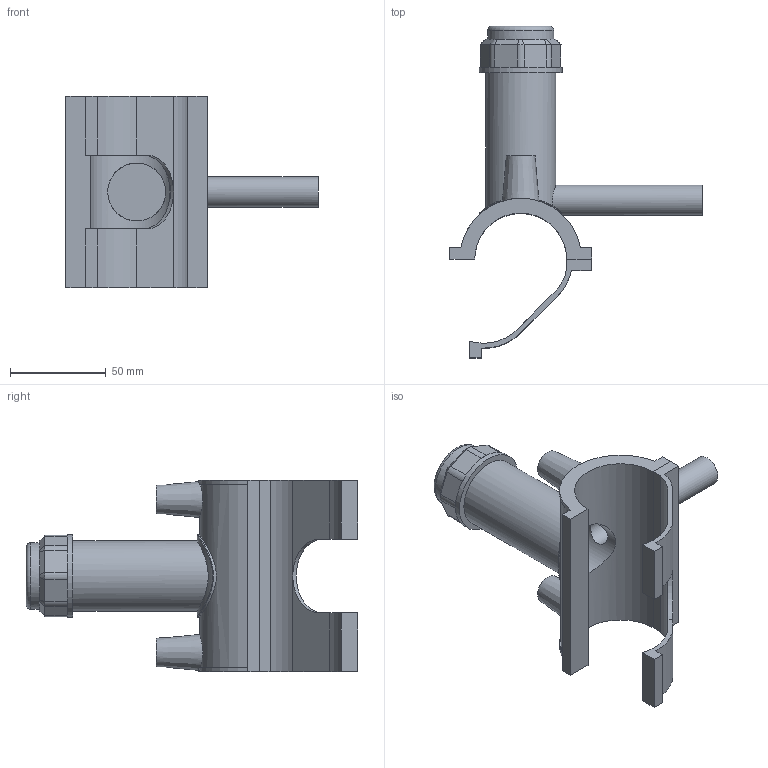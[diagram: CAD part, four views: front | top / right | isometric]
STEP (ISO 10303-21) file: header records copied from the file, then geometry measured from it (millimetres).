
FILE_DESCRIPTION(/* description */ ('PLASSON TAPPING SADDLE 1 1/2''''IPS x 1 1/2''''CTS'),/* implementation_level */ '2;1');
FILE_NAME(/* name */ 'C:\Dropbox\KIMPROJECTS-Inventor 2019\99-16-3568-Processing Inch\ASTM ElectroFusion 2021\5963B\5963BU03015005.ipt.stp',/* time_stamp */ '2021-08-30T09:55:59+03:00',/* author */ ('KIM'),/* organization */ (''),/* preprocessor_version */ 'ST-DEVELOPER v17.2',/* originating_system */ 'Autodesk Inventor 2019',/* authorisation */ '');
FILE_SCHEMA (('AUTOMOTIVE_DESIGN { 1 0 10303 214 3 1 1 }'));
Length unit declared in the file: millimetre
Products named in the file (1): 5963BU03015005
Bounding box: 132.08 x 173.65 x 100.08 mm (x, y, z)
Volume: 154672 mm3; surface area: 67112.7 mm2
Topology: 2 solids, 2 shells, 108 faces, 282 edges, 186 vertices
Faces by surface type: plane 65, cylinder 31, cone 10, torus 1, bspline 1
Full cylindrical faces by diameter (mm): 4 x2, 10 x2, 12.64 x1, 15.8 x1, 30.303 x1, 34.632 x1, 36.797 x1, 43.29 x2
Entity records: 3824 total; most frequent: CARTESIAN_POINT 1090, ORIENTED_EDGE 564, DIRECTION 564, EDGE_CURVE 282, AXIS2_PLACEMENT_3D 204, VERTEX_POINT 186, LINE 156, VECTOR 156
